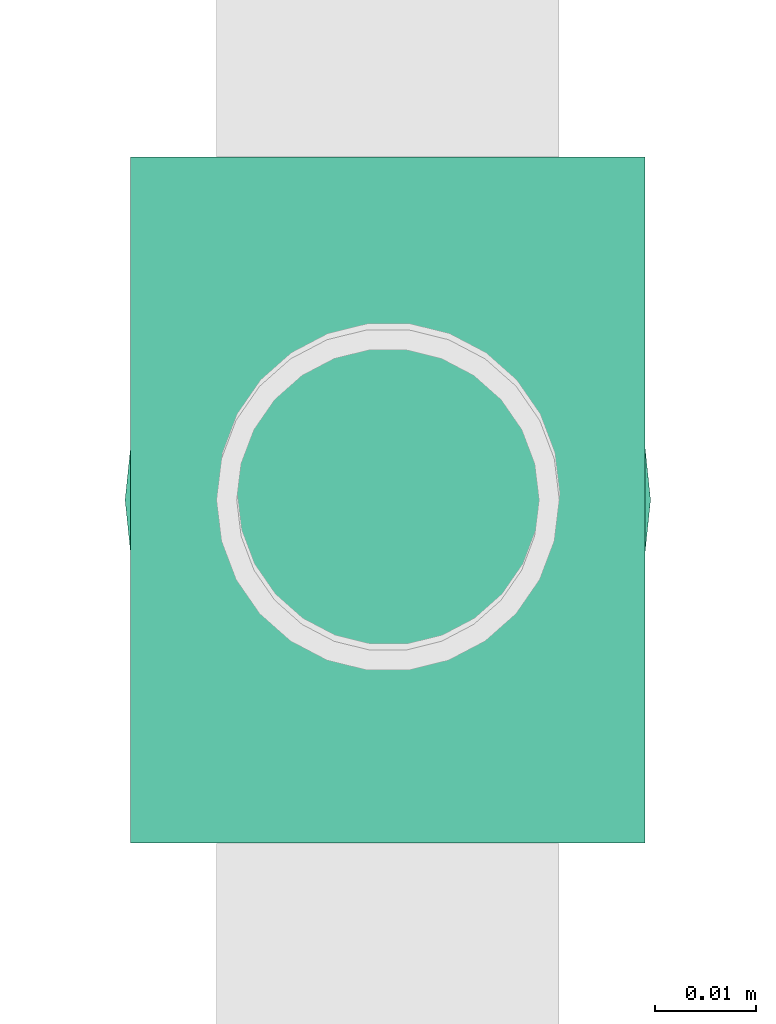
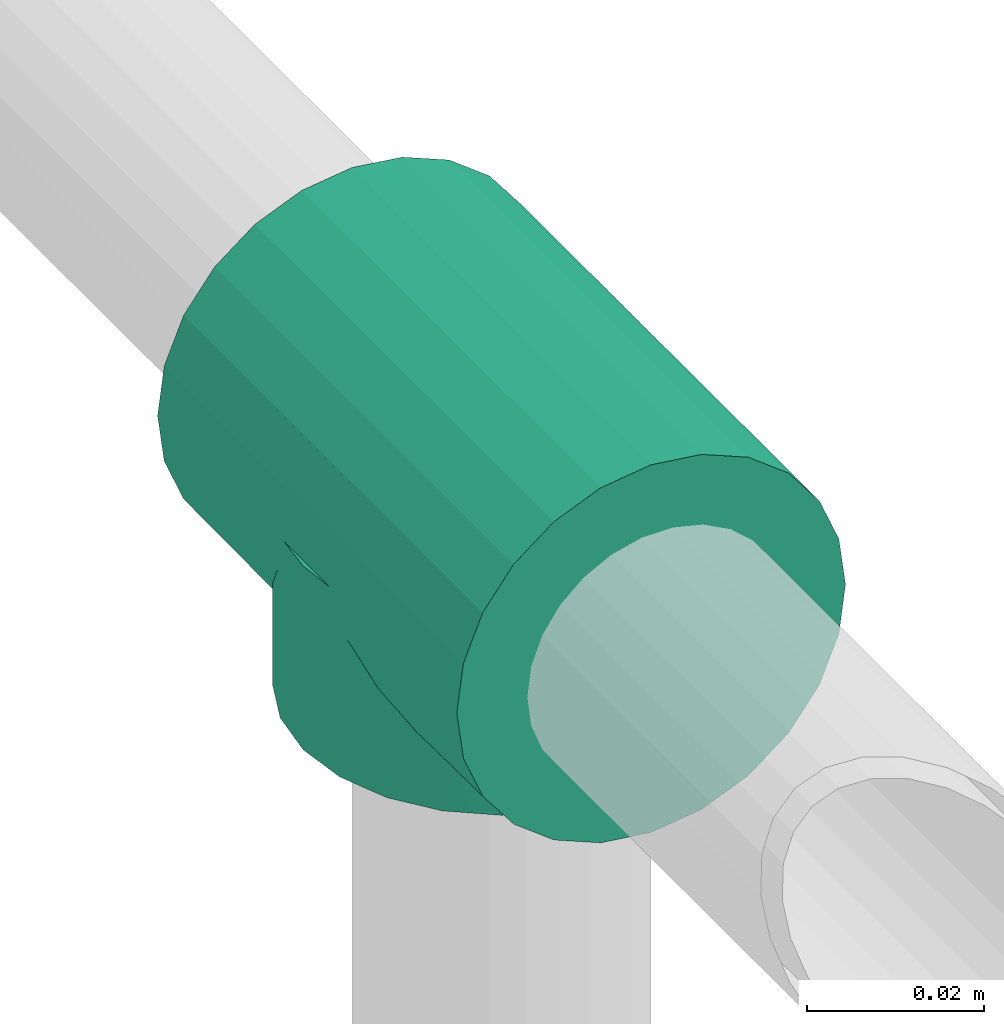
# One storey, part 11 of 17: 1 flow fitting.
"""IFC2X3 building model written with IfcOpenShell, lengths in millimetres."""

from ifc_helpers import new_model, entity, si_unit, converted_unit, derived_unit, direction, frame, origin_with_axes, place, context, subcontext, project, spatial, open_shell, surface_model, source, transform, mapped, type_object, element, save


model = new_model("IFC2X3")

# Units and contexts
model_context = context("Model", 3, precision=0.01, world=frame((0.0, 4.29681676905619e-09, 0.0)), true_north=direction((4.01073788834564e-13, 1.0)))
plan_context = context("Plan", 3, precision=0.01, world=frame((0.0, 4.29681676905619e-09, 0.0)), true_north=direction((4.01073788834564e-13, 1.0)))
body_context = subcontext(model_context, "Body", "Model", "MODEL_VIEW")
ifc_project = project(units=[converted_unit("PLANEANGLEUNIT", "DEGREE", entity("IfcPositiveLengthMeasure", 0.0174532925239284), si_unit("PLANEANGLEUNIT", "RADIAN"), dimensions=[0, 0, 0, 0, 0, 0, 0]), si_unit("AREAUNIT", "SQUARE_METRE"), si_unit("LENGTHUNIT", "METRE", prefix="MILLI"), si_unit("MASSUNIT", "GRAM", prefix="KILO"), si_unit("POWERUNIT", "WATT"), si_unit("PRESSUREUNIT", "PASCAL"), si_unit("FORCEUNIT", "NEWTON", prefix="KILO"), si_unit("ELECTRICVOLTAGEUNIT", "VOLT"), si_unit("ELECTRICCURRENTUNIT", "AMPERE"), si_unit("THERMODYNAMICTEMPERATUREUNIT", "DEGREE_CELSIUS"), si_unit("TIMEUNIT", "SECOND"), si_unit("VOLUMEUNIT", "CUBIC_METRE"), derived_unit("LINEARVELOCITYUNIT", [(si_unit("LENGTHUNIT", "METRE"), 1), (si_unit("TIMEUNIT", "SECOND"), -1)]), derived_unit("VOLUMETRICFLOWRATEUNIT", [(si_unit("VOLUMEUNIT", "CUBIC_METRE"), 1), (si_unit("TIMEUNIT", "SECOND"), -1)]), derived_unit("THERMALTRANSMITTANCEUNIT", [(si_unit("POWERUNIT", "WATT"), 1), (si_unit("THERMODYNAMICTEMPERATUREUNIT", "KELVIN"), -1), (si_unit("AREAUNIT", "SQUARE_METRE"), -1)]), derived_unit("SOUNDPRESSUREUNIT", [(si_unit("PRESSUREUNIT", "PASCAL"), 1)])], contexts=[model_context, plan_context])

# Site, building, storey
site_placement = place(None, frame((0.0, -4.29681676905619e-09, 0.0), z_axis=(0.0, 0.0, 1.0), x_axis=(1.0, 0.0, 0.0)))
site = spatial("IfcSite", under=ifc_project, at=site_placement, Name="ENGM", CompositionType="ELEMENT")
building_placement = place(site_placement, frame((0.0, 4.29681676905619e-09, 0.0), z_axis=(0.0, 0.0, 1.0), x_axis=(1.0, 0.0, 0.0)))
building = spatial("IfcBuilding", under=site, at=building_placement, Name="TH", CompositionType="ELEMENT")
storey_placement = place(building_placement, frame((0.0, 0.0, 205200.0), z_axis=(0.0, 0.0, 1.0), x_axis=(1.0, 0.0, 0.0)))
storey = spatial("IfcBuildingStorey", under=building, at=storey_placement, Name="Nivå D + 1,2 m", CompositionType="ELEMENT", Elevation=205200.0)

# Flow fitting
pipe_fitting_type = type_object("IfcPipeFittingType", Name="magi_pipe_fe_tee_centric_90_NOR 2", PredefinedType="JUNCTION")
shared_shape = source(origin_with_axes(), body_context, "Body", "SurfaceModel", [
    surface_model("IfcShellBasedSurfaceModel", [(-33.8, 4.37404, -16.32415), (-33.8, 0.0, -16.9), (-33.8, 16.32415, -4.37404), (-33.8, 8.45, -14.63583), (-33.8, 11.9501, -11.9501), (-33.8, 14.63583, -8.45), (-33.8, -16.9, 0.0), (-33.8, -11.9501, -11.9501), (-33.8, -14.63583, -8.45), (-33.8, -8.45, -14.63583), (-33.8, -4.37404, -16.32415), (-33.8, -16.32415, -4.37404), (-33.8, 14.63583, 8.45), (-33.8, 16.32415, 4.37404), (-33.8, -8.45, 14.63583), (-33.8, 8.45, 14.63583), (-33.8, 11.9501, 11.9501), (-33.8, 4.37404, 16.32415), (-33.8, 0.0, 16.9), (-33.8, -4.37404, 16.32415), (-33.8, -16.32415, 4.37404), (-33.8, 16.9, 0.0), (33.8, 4.37404, -16.32415), (33.8, -16.9, 0.0), (33.8, 0.0, -16.9), (33.8, 14.63583, -8.45), (33.8, 8.45, -14.63583), (33.8, 16.32415, -4.37404), (33.8, 11.9501, -11.9501), (33.8, -16.32415, 4.37404), (33.8, -8.45, -14.63583), (33.8, -4.37404, -16.32415), (33.8, -11.9501, -11.9501), (33.8, -14.63583, -8.45), (33.8, -16.32415, -4.37404), (33.8, 16.32415, 4.37404), (33.8, 8.45, 14.63583), (33.8, 14.63583, 8.45), (33.8, 11.9501, 11.9501), (33.8, -8.45, 14.63583), (33.8, 0.0, 16.9), (33.8, -4.37404, 16.32415), (33.8, -14.63583, 8.45), (16.28698, -16.28698, 4.51047), (16.9, -16.9, 0.0), (14.62704, -14.62704, 8.4652), (33.8, -11.9501, 11.9501), (9.47213, -9.47213, 13.99602), (12.26343, -12.26343, 11.62834), (-16.9, -16.9, 0.0), (-16.28698, -16.28698, 4.51047), (-33.8, -14.63583, 8.45), (-14.62704, -14.62704, 8.4652), (-12.26343, -12.26343, 11.62834), (-9.47213, -9.47213, 13.99602), (-33.8, -11.9501, 11.9501), (-6.42894, -6.42894, 15.62942), (6.42894, -6.42894, 15.62942), (3.24522, -3.24522, 16.58549), (0.0, 0.0, 16.9), (33.8, 4.37404, 16.32415), (33.8, 16.9, 0.0), (-3.24522, -3.24522, 16.58549), (3.24522, -3.24522, -16.58549), (0.0, 0.0, -16.9), (-3.24522, -3.24522, -16.58549), (-6.42894, -6.42894, -15.62942), (6.42894, -6.42894, -15.62942), (9.47213, -9.47213, -13.99602), (12.26343, -12.26343, -11.62834), (14.62704, -14.62704, -8.4652), (16.28698, -16.28698, -4.51047), (-9.47213, -9.47213, -13.99602), (-12.26343, -12.26343, -11.62834), (-16.28698, -16.28698, -4.51047), (-14.62704, -14.62704, -8.4652), (4.37404, -25.35, -16.32415), (-16.9, -25.35, 0.0), (0.0, -25.35, -16.9), (14.63583, -25.35, -8.45), (8.45, -25.35, -14.63583), (16.32415, -25.35, -4.37404), (11.9501, -25.35, -11.9501), (-11.9501, -25.35, -11.9501), (-8.45, -25.35, -14.63583), (-4.37404, -25.35, -16.32415), (-14.63583, -25.35, -8.45), (-16.32415, -25.35, -4.37404), (8.45, -25.35, 14.63583), (16.32415, -25.35, 4.37404), (14.63583, -25.35, 8.45), (11.9501, -25.35, 11.9501), (-16.32415, -25.35, 4.37404), (-11.9501, -25.35, 11.9501), (-14.63583, -25.35, 8.45), (-8.45, -25.35, 14.63583), (0.0, -25.35, 16.9), (-4.37404, -25.35, 16.32415), (4.37404, -25.35, 16.32415), (16.9, -25.35, 0.0), (0.0, -25.35, -25.9), (6.70341, -25.35, -25.01748), (12.95, -25.35, -22.43006), (-6.70341, -25.35, -25.01748), (22.43006, -25.35, -12.95), (25.01748, -25.35, -6.70341), (18.31407, -25.35, -18.31407), (-18.31407, -25.35, -18.31407), (-12.95, -25.35, -22.43006), (-25.01748, -25.35, -6.70341), (-22.43006, -25.35, -12.95), (-25.9, -25.35, 0.0), (-18.31407, -25.35, 18.31407), (25.9, -25.35, 0.0), (25.01748, -25.35, 6.70341), (22.43006, -25.35, 12.95), (12.95, -25.35, 22.43006), (18.31407, -25.35, 18.31407), (0.0, -25.35, 25.9), (6.70341, -25.35, 25.01748), (-25.01748, -25.35, 6.70341), (-22.43006, -25.35, 12.95), (-6.70341, -25.35, 25.01748), (-12.95, -25.35, 22.43006), (-25.09344, -24.52537, 6.41319), (-25.06335, -25.35, 6.35497), (23.99287, -23.39675, 9.26368), (23.72377, -25.35, 9.82671), (24.0472, -25.35, 9.04588), (24.26801, -23.6789, 8.55106), (-22.89229, -22.26813, 12.11417), (-23.07691, -25.35, 11.38835), (-15.98186, -15.07423, 20.38112), (25.09344, -24.52537, 6.41319), (25.06335, -25.35, 6.35497), (-11.93303, -10.68689, 22.98723), (-23.99287, -23.39675, 9.26368), (-24.0472, -25.35, 9.04588), (-23.72377, -25.35, 9.82671), (24.95587, -24.38429, 6.7695), (-20.37206, -25.35, 15.63203), (-19.72917, -19.00139, 16.78004), (-24.85577, -25.35, 7.09383), (-24.95587, -24.38429, 6.7695), (-5.30919, 0.0, 25.35), (24.54316, -23.96106, 7.83843), (24.37062, -25.35, 8.26506), (24.69405, -25.35, 7.48424), (-24.26801, -23.6789, 8.55106), (-24.54316, -23.96106, 7.83843), (-24.37062, -25.35, 8.26506), (-21.40106, -25.35, 14.29102), (-21.31073, -20.63476, 14.4471), (-23.44258, -22.83244, 10.68892), (19.72917, -19.00139, 16.78004), (20.37206, -25.35, 15.63203), (-25.40754, -24.8465, 3.91569), (-25.38447, -25.35, 3.91583), (-7.90306, -5.85414, 24.66478), (24.85577, -25.35, 7.09383), (23.44258, -22.83244, 10.68892), (0.00306, 0.0, 25.9), (-25.20098, -25.35, 5.30962), (-25.21123, -24.64579, 5.47663), (-25.25049, -24.68593, 5.16444), (11.93303, -10.68689, 22.98723), (15.98186, -15.07423, 20.38112), (25.13271, -24.56551, 6.101), (22.89229, -22.26813, 12.11417), (21.31073, -20.63476, 14.4471), (25.25049, -24.68593, 5.16444), (25.24685, -25.35, 4.96118), (25.28976, -24.72608, 4.85225), (25.21123, -24.64579, 5.47663), (25.17197, -24.60565, 5.78882), (25.1551, -25.35, 5.65807), (23.07691, -25.35, 11.38835), (5.30919, 0.0, 25.35), (7.90306, -5.85414, 24.66478), (25.10923, -25.35, 6.00652), (-25.32902, -24.76622, 4.54007), (-25.3386, -25.35, 4.26428), (-25.29272, -25.35, 4.61273), (21.40106, -25.35, 14.29102), (-24.69405, -25.35, 7.48424), (-25.13271, -24.56551, 6.101), (24.8183, -24.24321, 7.12581), (-24.8183, -24.24321, 7.12581), (-25.24685, -25.35, 4.96118), (25.38447, -25.35, 3.91583), (25.40754, -24.8465, 3.91569), (-25.17197, -24.60565, 5.78882), (-25.1551, -25.35, 5.65807), (-25.10923, -25.35, 6.00652), (25.3386, -25.35, 4.26428), (25.36828, -24.80636, 4.22788), (25.32902, -24.76622, 4.54007), (25.20098, -25.35, 5.30962), (-25.36828, -24.80636, 4.22788), (25.29272, -25.35, 4.61273), (-25.28976, -24.72608, 4.85225), (25.06335, -25.35, -6.35497), (25.09344, -24.52537, -6.41319), (25.13271, -24.56551, -6.101), (24.26801, -23.6789, -8.55106), (24.54316, -23.96106, -7.83843), (24.37062, -25.35, -8.26506), (-25.06335, -25.35, -6.35497), (-25.10923, -25.35, -6.00652), (-25.13271, -24.56551, -6.101), (20.37206, -25.35, -15.63203), (19.72917, -19.00139, -16.78004), (23.07691, -25.35, -11.38835), (23.44258, -22.83244, -10.68892), (23.72377, -25.35, -9.82671), (15.98186, -15.07423, -20.38112), (-23.07691, -25.35, -11.38835), (-23.72377, -25.35, -9.82671), (-23.44258, -22.83244, -10.68892), (25.32902, -24.76622, -4.54007), (25.3386, -25.35, -4.26428), (25.29272, -25.35, -4.61273), (22.89229, -22.26813, -12.11417), (-24.95587, -24.38429, -6.7695), (-24.8183, -24.24321, -7.12581), (-24.85577, -25.35, -7.09383), (11.93303, -10.68689, -22.98723), (-25.21123, -24.64579, -5.47663), (-25.17197, -24.60565, -5.78882), (-25.1551, -25.35, -5.65807), (21.40106, -25.35, -14.29102), (21.31073, -20.63476, -14.4471), (-25.25049, -24.68593, -5.16444), (-25.24685, -25.35, -4.96118), (-25.28976, -24.72608, -4.85225), (7.90306, -5.85414, -24.66478), (-25.09344, -24.52537, -6.41319), (5.30919, 0.0, -25.35), (0.00306, 0.0, -25.9), (23.99287, -23.39675, -9.26368), (24.0472, -25.35, -9.04588), (25.40754, -24.8465, -3.91569), (25.38447, -25.35, -3.91583), (24.95587, -24.38429, -6.7695), (-11.93303, -10.68689, -22.98723), (-5.30919, 0.0, -25.35), (-24.37062, -25.35, -8.26506), (-24.26801, -23.6789, -8.55106), (-24.0472, -25.35, -9.04588), (-22.89229, -22.26813, -12.11417), (-21.31073, -20.63476, -14.4471), (-15.98186, -15.07423, -20.38112), (-19.72917, -19.00139, -16.78004), (-20.37206, -25.35, -15.63203), (-21.40106, -25.35, -14.29102), (-7.90306, -5.85414, -24.66478), (25.20098, -25.35, -5.30962), (25.21123, -24.64579, -5.47663), (25.25049, -24.68593, -5.16444), (-23.99287, -23.39675, -9.26368), (-24.54316, -23.96106, -7.83843), (-24.69405, -25.35, -7.48424), (24.69405, -25.35, -7.48424), (24.85577, -25.35, -7.09383), (24.8183, -24.24321, -7.12581), (25.24685, -25.35, -4.96118), (-25.38447, -25.35, -3.91583), (-25.40754, -24.8465, -3.91569), (25.17197, -24.60565, -5.78882), (25.1551, -25.35, -5.65807), (25.10923, -25.35, -6.00652), (-25.3386, -25.35, -4.26428), (-25.36828, -24.80636, -4.22788), (-25.32902, -24.76622, -4.54007), (-25.20098, -25.35, -5.30962), (25.36828, -24.80636, -4.22788), (-25.29272, -25.35, -4.61273), (25.28976, -24.72608, -4.85225), (-33.8, 0.0, -25.35), (-33.8, -25.35, 0.0), (-33.8, 6.56106, -24.48622), (-33.8, 12.675, -21.95374), (-33.8, 21.95374, -12.675), (-33.8, 24.48622, -6.56106), (-33.8, 17.92516, -17.92516), (-33.8, -17.92516, -17.92516), (-33.8, -21.95374, -12.675), (-33.8, -12.675, -21.95374), (-33.8, -6.56106, -24.48622), (-33.8, -24.48622, -6.56106), (-33.8, 25.35, 0.0), (-33.8, 24.48622, 6.56106), (-33.8, -21.95374, 12.675), (-33.8, 21.95374, 12.675), (-33.8, 6.56106, 24.48622), (-33.8, 12.675, 21.95374), (-33.8, 17.92516, 17.92516), (-33.8, -17.92516, 17.92516), (-33.8, -6.56106, 24.48622), (-33.8, -24.48622, 6.56106), (-33.8, -12.675, 21.95374), (-33.8, 0.0, 25.35), (33.8, 6.56106, -24.48622), (33.8, -25.35, 0.0), (33.8, 0.0, -25.35), (33.8, 21.95374, -12.675), (33.8, 12.675, -21.95374), (33.8, 24.48622, 6.56106), (33.8, 17.92516, -17.92516), (33.8, -12.675, -21.95374), (33.8, -21.95374, -12.675), (33.8, -17.92516, -17.92516), (33.8, -6.56106, -24.48622), (33.8, -24.48622, -6.56106), (33.8, 24.48622, -6.56106), (33.8, 21.95374, 12.675), (33.8, -21.95374, 12.675), (33.8, 17.92516, 17.92516), (33.8, 12.675, 21.95374), (33.8, 6.56106, 24.48622), (33.8, -6.56106, 24.48622), (33.8, -17.92516, 17.92516), (33.8, -24.48622, 6.56106), (33.8, -12.675, 21.95374), (33.8, 0.0, 25.35), (33.8, 25.35, 0.0), (33.8, -23.21998, 9.61803), (17.85552, -17.03781, 18.58058), (33.8, -15.30008, 19.93945), (33.8, -19.93945, 15.30008), (-33.8, -19.93945, 15.30008), (-33.8, -23.21998, 9.61803), (33.8, -9.61803, 23.21998), (-33.8, -15.30008, 19.93945), (-17.85552, -17.03781, 18.58058), (-33.8, -9.61803, 23.21998), (-33.8, -9.61803, -23.21998), (-17.85552, -17.03781, -18.58058), (-33.8, -15.30008, -19.93945), (33.8, -9.61803, -23.21998), (17.85552, -17.03781, -18.58058), (33.8, -15.30008, -19.93945), (33.8, -23.21998, -9.61803), (33.8, -19.93945, -15.30008), (-33.8, -19.93945, -15.30008), (-33.8, -23.21998, -9.61803)], [open_shell([[[0, 1, 2]], [[3, 0, 4]], [[0, 2, 5]], [[4, 0, 5]], [[6, 2, 1]], [[7, 8, 9]], [[1, 10, 9]], [[11, 6, 8]], [[1, 9, 8]], [[1, 8, 6]], [[6, 12, 2]], [[12, 13, 2]], [[14, 12, 6]], [[12, 14, 15]], [[16, 12, 15]], [[17, 15, 18]], [[19, 18, 14]], [[14, 6, 20]], [[14, 18, 15]], [[21, 2, 13]], [[22, 23, 24]], [[25, 22, 26]], [[25, 27, 22]], [[25, 26, 28]], [[29, 23, 22]], [[24, 30, 31]], [[24, 32, 30]], [[33, 23, 34]], [[33, 32, 24]], [[23, 33, 24]], [[22, 27, 29]], [[27, 35, 36]], [[36, 35, 37]], [[36, 37, 38]], [[39, 40, 41]], [[29, 42, 43]], [[23, 29, 44]], [[44, 29, 43]], [[42, 45, 43]], [[46, 39, 47]], [[45, 42, 48]], [[47, 48, 46]], [[48, 42, 46]], [[49, 50, 20]], [[49, 20, 6]], [[20, 50, 51]], [[50, 52, 51]], [[53, 54, 55]], [[55, 51, 53]], [[55, 54, 14]], [[53, 51, 52]], [[14, 54, 56]], [[47, 39, 57]], [[58, 40, 59]], [[57, 41, 58]], [[41, 57, 39]], [[58, 41, 40]], [[59, 40, 60]], [[37, 35, 13]], [[16, 36, 38]], [[12, 38, 37]], [[60, 36, 15]], [[21, 35, 61]], [[62, 59, 18]], [[62, 19, 56]], [[19, 62, 18]], [[56, 19, 14]], [[59, 17, 18]], [[60, 17, 59]], [[15, 17, 60]], [[15, 36, 16]], [[12, 16, 38]], [[13, 12, 37]], [[35, 21, 13]], [[5, 25, 28]], [[21, 61, 27]], [[28, 26, 3]], [[25, 2, 27]], [[24, 31, 63]], [[24, 64, 22]], [[64, 24, 63]], [[26, 22, 0]], [[64, 0, 22]], [[4, 28, 3]], [[2, 25, 5]], [[5, 28, 4]], [[2, 21, 27]], [[65, 66, 10]], [[1, 0, 64]], [[1, 65, 10]], [[66, 9, 10]], [[0, 3, 26]], [[1, 64, 65]], [[63, 31, 67]], [[30, 32, 68]], [[69, 68, 32]], [[33, 70, 69]], [[69, 32, 33]], [[30, 68, 67]], [[34, 23, 44]], [[34, 71, 33]], [[71, 34, 44]], [[33, 71, 70]], [[72, 9, 66]], [[72, 7, 9]], [[7, 72, 73]], [[7, 73, 8]], [[74, 49, 11]], [[75, 74, 8]], [[74, 11, 8]], [[11, 49, 6]], [[75, 8, 73]], [[30, 67, 31]], [[76, 77, 78]], [[79, 76, 80]], [[79, 81, 76]], [[79, 80, 82]], [[77, 76, 81]], [[78, 83, 84]], [[84, 85, 78]], [[86, 77, 87]], [[83, 78, 86]], [[77, 86, 78]], [[88, 89, 90]], [[88, 90, 91]], [[92, 93, 94]], [[95, 96, 97]], [[77, 92, 49]], [[50, 49, 92]], [[94, 93, 53]], [[93, 95, 54]], [[92, 94, 50]], [[56, 95, 97]], [[52, 50, 94]], [[53, 52, 94]], [[56, 54, 95]], [[96, 59, 62]], [[56, 97, 62]], [[53, 93, 54]], [[62, 97, 96]], [[98, 58, 96]], [[88, 57, 98]], [[90, 89, 43]], [[48, 91, 90]], [[91, 47, 88]], [[44, 89, 99]], [[57, 58, 98]], [[47, 57, 88]], [[44, 43, 89]], [[45, 48, 90]], [[43, 45, 90]], [[47, 91, 48]], [[96, 58, 59]], [[99, 81, 44]], [[71, 44, 81]], [[79, 82, 69]], [[82, 80, 68]], [[81, 79, 71]], [[67, 80, 76]], [[70, 71, 79]], [[69, 70, 79]], [[67, 68, 80]], [[78, 64, 63]], [[67, 76, 63]], [[69, 82, 68]], [[63, 76, 78]], [[85, 65, 78]], [[84, 66, 85]], [[86, 87, 74]], [[86, 73, 83]], [[72, 84, 83]], [[49, 87, 77]], [[66, 65, 85]], [[72, 66, 84]], [[49, 74, 87]], [[75, 73, 86]], [[74, 75, 86]], [[72, 83, 73]], [[78, 65, 64]], [[51, 55, 20]], [[100, 101, 102]], [[103, 100, 102]], [[104, 105, 102]], [[104, 102, 106]], [[103, 102, 105]], [[103, 107, 108]], [[107, 103, 109]], [[107, 109, 110]], [[109, 103, 111]], [[103, 105, 111]], [[105, 112, 111]], [[113, 114, 115]], [[116, 105, 115]], [[105, 116, 112]], [[116, 115, 117]], [[118, 116, 119]], [[120, 112, 121]], [[111, 112, 120]], [[112, 122, 123]], [[122, 112, 118]], [[116, 118, 112]], [[115, 105, 113]], [[120, 124, 125]], [[126, 127, 128]], [[128, 129, 126]], [[121, 130, 131]], [[132, 112, 123]], [[133, 114, 134]], [[123, 122, 135]], [[136, 137, 138]], [[114, 133, 139]], [[140, 112, 141]], [[142, 143, 120]], [[118, 144, 122]], [[145, 146, 147]], [[148, 149, 150]], [[151, 140, 152]], [[138, 153, 136]], [[154, 117, 155]], [[135, 132, 123]], [[156, 111, 157]], [[144, 158, 122]], [[135, 122, 158]], [[114, 139, 159]], [[141, 112, 132]], [[127, 126, 160]], [[118, 161, 144]], [[162, 163, 164]], [[116, 165, 119]], [[153, 131, 130]], [[140, 141, 152]], [[117, 166, 116]], [[134, 167, 133]], [[121, 152, 130]], [[168, 169, 115]], [[129, 128, 146]], [[131, 153, 138]], [[170, 171, 172]], [[173, 174, 175]], [[160, 168, 176]], [[177, 161, 118]], [[119, 178, 177]], [[120, 143, 124]], [[134, 179, 167]], [[180, 181, 182]], [[154, 155, 169]], [[115, 169, 183]], [[178, 119, 165]], [[176, 127, 160]], [[154, 166, 117]], [[116, 166, 165]], [[168, 115, 176]], [[149, 184, 150]], [[177, 118, 119]], [[185, 125, 124]], [[139, 186, 159]], [[169, 155, 183]], [[145, 147, 186]], [[152, 121, 151]], [[184, 149, 187]], [[164, 188, 162]], [[189, 113, 190]], [[186, 147, 159]], [[187, 142, 184]], [[148, 137, 136]], [[191, 192, 193]], [[194, 195, 196]], [[143, 142, 187]], [[193, 185, 191]], [[173, 175, 197]], [[125, 185, 193]], [[192, 163, 162]], [[197, 170, 173]], [[179, 174, 167]], [[198, 157, 181]], [[146, 145, 129]], [[199, 196, 172]], [[137, 148, 150]], [[174, 179, 175]], [[163, 192, 191]], [[182, 200, 180]], [[170, 197, 171]], [[195, 189, 190]], [[200, 182, 188]], [[199, 172, 171]], [[188, 164, 200]], [[196, 199, 194]], [[157, 198, 156]], [[189, 195, 194]], [[181, 180, 198]], [[201, 105, 202]], [[203, 201, 202]], [[204, 205, 206]], [[207, 208, 209]], [[210, 106, 211]], [[212, 213, 214]], [[106, 102, 215]], [[216, 217, 218]], [[219, 220, 221]], [[212, 104, 222]], [[223, 224, 225]], [[226, 102, 101]], [[227, 228, 229]], [[230, 210, 231]], [[215, 211, 106]], [[213, 212, 222]], [[232, 233, 234]], [[226, 101, 235]], [[236, 109, 207]], [[237, 235, 101]], [[215, 102, 226]], [[210, 211, 231]], [[238, 237, 100]], [[239, 240, 214]], [[237, 101, 100]], [[109, 236, 223]], [[241, 113, 242]], [[105, 243, 202]], [[103, 108, 244]], [[100, 103, 245]], [[246, 247, 248]], [[249, 110, 216]], [[110, 249, 250]], [[104, 231, 222]], [[108, 107, 251]], [[252, 107, 253]], [[110, 250, 254]], [[236, 207, 209]], [[109, 223, 225]], [[255, 245, 103]], [[244, 255, 103]], [[214, 213, 239]], [[256, 257, 258]], [[216, 218, 249]], [[217, 259, 218]], [[252, 251, 107]], [[260, 246, 261]], [[252, 253, 250]], [[244, 108, 251]], [[205, 262, 206]], [[248, 247, 259]], [[100, 245, 238]], [[259, 217, 248]], [[263, 243, 105]], [[250, 253, 254]], [[260, 261, 224]], [[231, 104, 230]], [[262, 205, 264]], [[258, 265, 256]], [[266, 111, 267]], [[224, 261, 225]], [[264, 263, 262]], [[204, 240, 239]], [[268, 269, 270]], [[271, 272, 273]], [[243, 263, 264]], [[270, 203, 268]], [[227, 229, 274]], [[201, 203, 270]], [[269, 257, 256]], [[274, 232, 227]], [[208, 228, 209]], [[275, 242, 220]], [[246, 260, 247]], [[276, 273, 234]], [[240, 204, 206]], [[228, 208, 229]], [[257, 269, 268]], [[221, 277, 219]], [[232, 274, 233]], [[272, 266, 267]], [[277, 221, 265]], [[276, 234, 233]], [[265, 258, 277]], [[273, 276, 271]], [[242, 275, 241]], [[266, 272, 271]], [[220, 219, 275]], [[278, 279, 280]], [[281, 280, 282]], [[280, 283, 282]], [[284, 281, 282]], [[283, 280, 279]], [[285, 286, 287]], [[288, 287, 286]], [[289, 279, 286]], [[278, 288, 286]], [[286, 279, 278]], [[279, 290, 283]], [[291, 279, 292]], [[291, 292, 293]], [[294, 295, 296]], [[292, 296, 293]], [[292, 294, 296]], [[297, 298, 292]], [[292, 279, 299]], [[300, 298, 297]], [[298, 294, 292]], [[294, 298, 301]], [[291, 290, 279]], [[302, 303, 304]], [[305, 302, 306]], [[302, 305, 307]], [[305, 306, 308]], [[307, 303, 302]], [[309, 310, 311]], [[310, 309, 312]], [[310, 303, 313]], [[303, 310, 312]], [[312, 304, 303]], [[307, 305, 314]], [[307, 315, 303]], [[316, 303, 315]], [[317, 318, 319]], [[315, 317, 316]], [[317, 319, 316]], [[316, 320, 321]], [[322, 303, 316]], [[321, 320, 323]], [[316, 319, 320]], [[324, 320, 319]], [[307, 314, 325]], [[303, 322, 133]], [[326, 168, 126]], [[133, 113, 303]], [[322, 326, 126]], [[327, 328, 166]], [[326, 316, 168]], [[328, 323, 166]], [[169, 329, 154]], [[154, 321, 327]], [[322, 126, 133]], [[316, 169, 168]], [[292, 152, 330]], [[328, 327, 321]], [[130, 331, 136]], [[299, 136, 331]], [[124, 279, 111]], [[279, 124, 299]], [[299, 124, 136]], [[165, 323, 332]], [[169, 316, 329]], [[154, 329, 321]], [[132, 135, 300]], [[132, 333, 334]], [[292, 130, 152]], [[334, 333, 297]], [[135, 335, 300]], [[330, 152, 141]], [[297, 141, 334]], [[166, 323, 165]], [[178, 324, 177]], [[332, 178, 165]], [[178, 332, 320]], [[178, 320, 324]], [[141, 297, 330]], [[177, 324, 319]], [[315, 307, 291]], [[296, 318, 317]], [[293, 317, 315]], [[319, 318, 295]], [[290, 307, 325]], [[301, 144, 294]], [[132, 300, 333]], [[298, 158, 301]], [[335, 158, 298]], [[301, 158, 144]], [[144, 177, 294]], [[158, 335, 135]], [[319, 294, 177]], [[295, 294, 319]], [[295, 318, 296]], [[293, 296, 317]], [[291, 293, 315]], [[307, 290, 291]], [[130, 292, 331]], [[308, 284, 305]], [[314, 283, 325]], [[314, 305, 282]], [[281, 308, 306]], [[304, 312, 235]], [[304, 237, 302]], [[237, 304, 235]], [[286, 250, 249]], [[306, 302, 280]], [[244, 287, 336]], [[237, 245, 302]], [[283, 314, 282]], [[305, 284, 282]], [[284, 308, 281]], [[325, 283, 290]], [[278, 245, 255]], [[289, 259, 236]], [[337, 338, 251]], [[255, 244, 336]], [[245, 278, 280]], [[278, 255, 288]], [[336, 288, 255]], [[280, 281, 306]], [[245, 280, 302]], [[312, 339, 235]], [[222, 231, 310]], [[340, 341, 311]], [[341, 340, 215]], [[222, 310, 342]], [[309, 215, 226]], [[231, 211, 343]], [[313, 303, 202]], [[344, 252, 250]], [[222, 342, 239]], [[113, 202, 303]], [[311, 211, 340]], [[239, 313, 202]], [[313, 239, 342]], [[251, 287, 244]], [[215, 309, 341]], [[251, 338, 287]], [[285, 337, 252]], [[285, 252, 344]], [[211, 311, 343]], [[235, 339, 226]], [[310, 231, 343]], [[338, 337, 285]], [[236, 111, 279]], [[289, 345, 259]], [[249, 345, 286]], [[289, 236, 279]], [[344, 250, 286]], [[345, 249, 259]], [[309, 226, 339]], [[144, 161, 177]], [[245, 237, 238]], [[14, 20, 55]], [[27, 36, 29]], [[40, 36, 60]], [[29, 46, 42]], [[29, 36, 46]], [[39, 46, 36]], [[40, 39, 36]], [[35, 27, 61]], [[81, 89, 77]], [[92, 77, 89]], [[93, 89, 88]], [[93, 88, 98]], [[92, 89, 93]], [[95, 93, 98]], [[96, 95, 98]], [[89, 81, 99]]])]),
])
flow_fitting_placement = place(storey_placement, frame((905442.5, 482081.61786, 4442.5), z_axis=(-0.9999999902, 0.0, -0.000139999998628), x_axis=(0.0, -1.0, 0.0)))
element("IfcFlowFitting", 1, at=flow_fitting_placement, inside=storey, type_object=pipe_fitting_type, Name="magi_pipe_fe_tee_centric_90_NOR 2", context=body_context, shape_type="MappedRepresentation", body=[
    mapped(shared_shape, transform((0.0, 0.0, 0.0), scale=1.0)),
])

save(model, "model.ifc")
